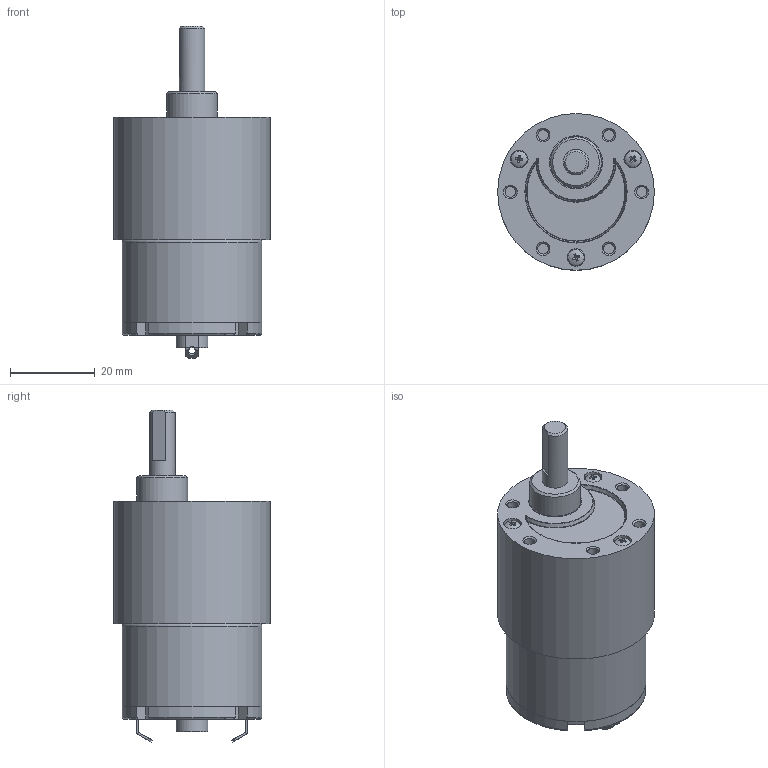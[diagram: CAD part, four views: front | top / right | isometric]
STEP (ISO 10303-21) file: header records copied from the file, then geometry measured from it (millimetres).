
FILE_DESCRIPTION(/* description */ ('STEP AP214','CAx-IF Rec.Pracs.---Representation and Presentation of Product Manufacturing Information (PMI)---4.0---2014-10-13'),/* implementation_level */ '2;1');
FILE_NAME(/* name */ 'JGB37-520.stp',/* time_stamp */ '2026-09-29T06:50:59+02:00',/* author */ ('R5800u'),/* organization */ (''),/* preprocessor_version */ 'ST-DEVELOPER v20',/* originating_system */ 'Autodesk Inventor 2025',/* authorisation */ '');
FILE_SCHEMA (('AP242_MANAGED_MODEL_BASED_3D_ENGINEERING_MIM_LF { 1 0 10303 442 1 1 4 }'));
Length unit declared in the file: millimetre
Products named in the file (1): JGB37-520
Bounding box: 37 x 37 x 78.38 mm (x, y, z)
Volume: 16286.7 mm3; surface area: 20765.1 mm2
Topology: 11 solids, 11 shells, 245 faces, 561 edges, 352 vertices
Faces by surface type: plane 143, cylinder 66, torus 14, cone 13, sphere 5, bspline 4
Full cylindrical faces by diameter (mm): 1.6 x3, 2 x3, 2.5 x6, 2.6 x3, 4 x3, 4.2 x3, 6 x4, 7.5 x1, 12 x1, 12.5 x1, 32 x2, 33 x1, 34 x1, 35.4 x1, 37 x1
Entity records: 7510 total; most frequent: CARTESIAN_POINT 1600, DIRECTION 1277, ORIENTED_EDGE 1122, EDGE_CURVE 561, AXIS2_PLACEMENT_3D 483, VERTEX_POINT 352, LINE 311, VECTOR 311
